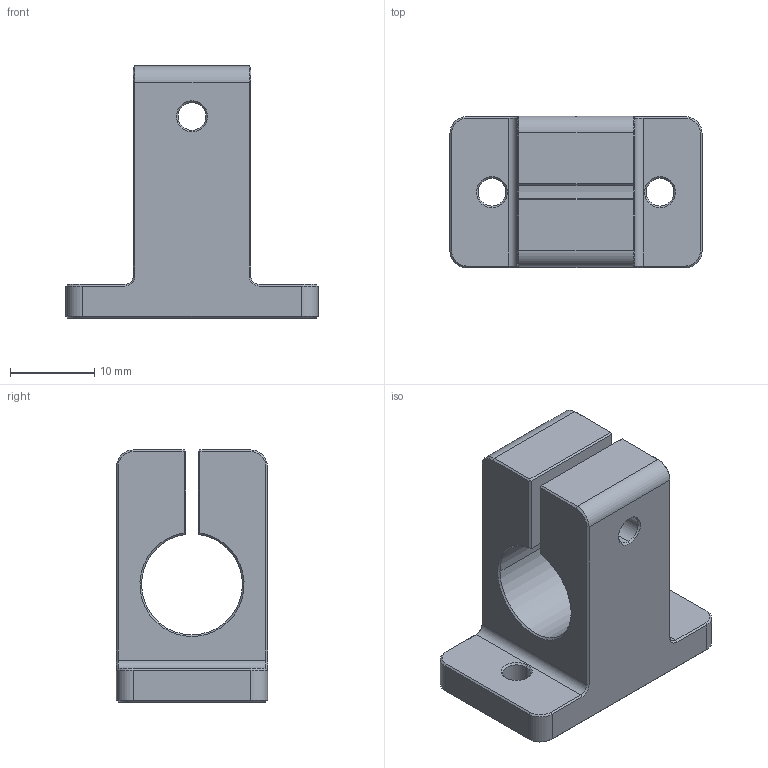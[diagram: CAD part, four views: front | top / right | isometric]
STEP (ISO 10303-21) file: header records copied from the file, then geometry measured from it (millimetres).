
FILE_DESCRIPTION (( 'STEP AP203' ), '1' );
FILE_NAME ('SMBT5-12.STEP', '2024-11-06T08:50:20', ( '' ), ( '' ), 'SwSTEP 2.0', 'SolidWorks 2018', '' );
FILE_SCHEMA (( 'CONFIG_CONTROL_DESIGN' ));
Length unit declared in the file: millimetre
Products named in the file (1): SMBT5-12
Bounding box: 30 x 18 x 30 mm (x, y, z)
Volume: 6464.6 mm3; surface area: 3767.8 mm2
Topology: 1 solids, 1 shells, 93 faces, 216 edges, 125 vertices
Faces by surface type: plane 41, cone 30, cylinder 21, bspline 1
Entity records: 2789 total; most frequent: CARTESIAN_POINT 565, DIRECTION 466, ORIENTED_EDGE 432, EDGE_CURVE 216, AXIS2_PLACEMENT_3D 166, LINE 134, VECTOR 134, VERTEX_POINT 125
